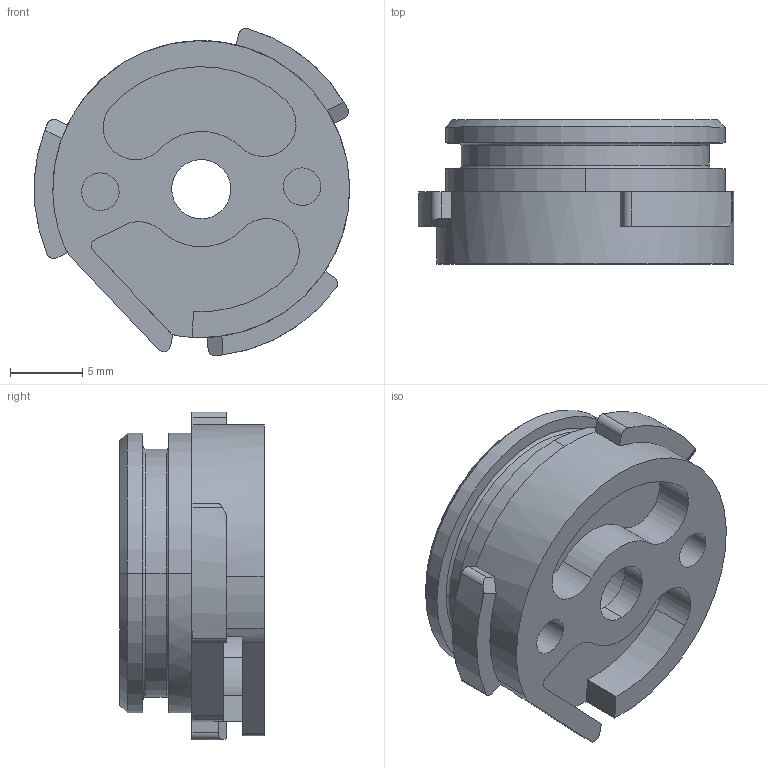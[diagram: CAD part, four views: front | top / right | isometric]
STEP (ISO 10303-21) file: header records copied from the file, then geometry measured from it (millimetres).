
FILE_DESCRIPTION(('CATIA V5 STEP Exchange'),'2;1');
FILE_NAME('C:\Users\Administrator\Desktop\BPC0010140(B)-气缸端盖（B）.stp','2021-05-10T03:36:56+00:00',('none'),('none'),'CATIA Version 5 Release 20 GA (IN-10)','CATIA V5 STEP AP214','none');
FILE_SCHEMA(('AUTOMOTIVE_DESIGN { 1 0 10303 214 1 1 1 1 }'));
Length unit declared in the file: millimetre
Products named in the file (1): BPC0010140
Bounding box: 21.88 x 10 x 22.72 mm (x, y, z)
Volume: 2240.5 mm3; surface area: 1944.8 mm2
Topology: 1 solids, 1 shells, 89 faces, 230 edges, 151 vertices
Faces by surface type: cylinder 48, plane 33, cone 4, torus 4
Entity records: 2822 total; most frequent: CARTESIAN_POINT 715, ORIENTED_EDGE 460, DIRECTION 360, EDGE_CURVE 230, AXIS2_PLACEMENT_3D 176, VERTEX_POINT 151, VECTOR 106, LINE 106
